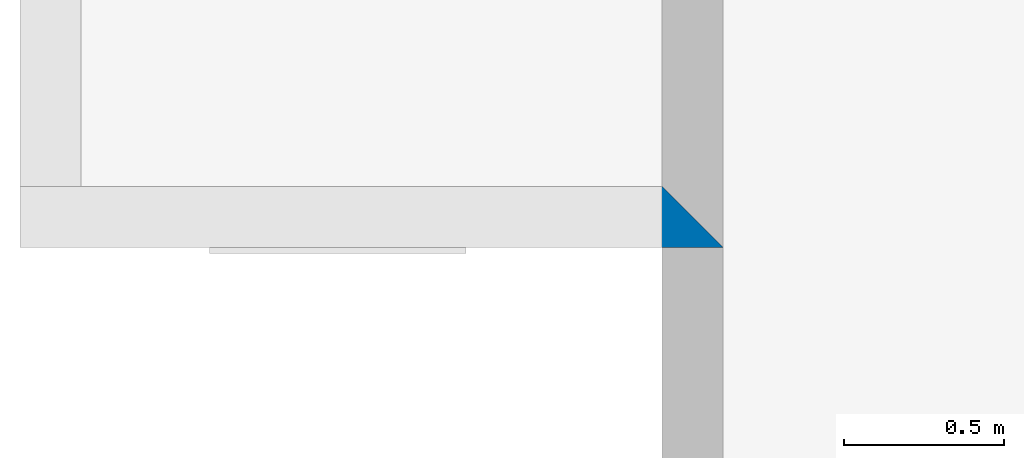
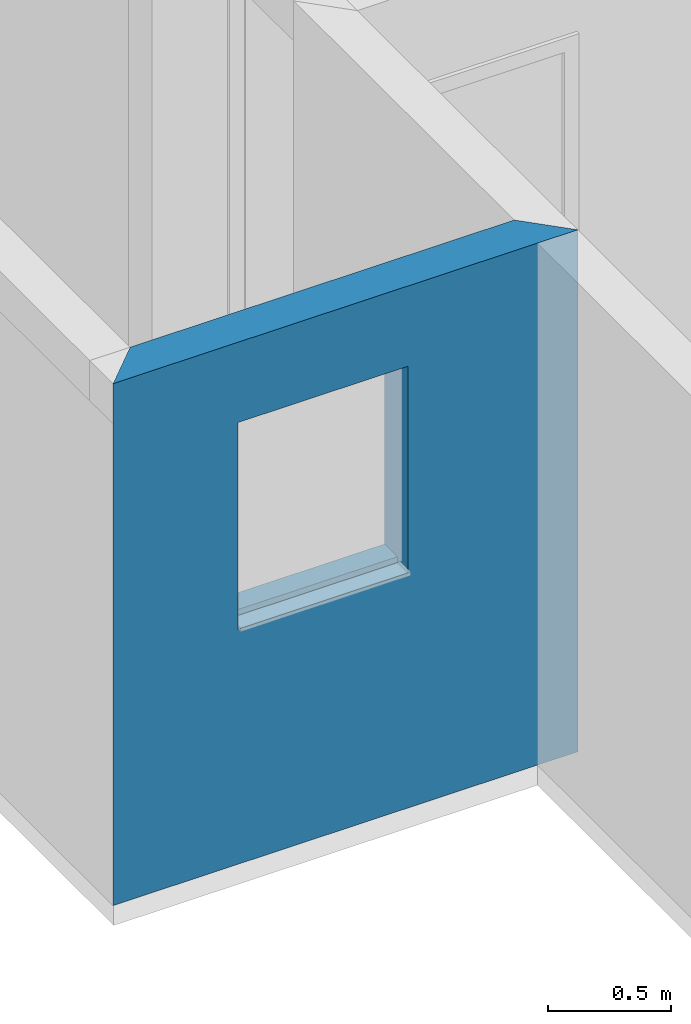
# One storey, part 3 of 47: 1 wall, 1 opening.
"""IFC2X3 building model written with IfcOpenShell, lengths in millimetres."""

from ifc_helpers import new_model, entity, si_unit, converted_unit, derived_unit, money_unit, direction, frame, origin_with_axes, origin_2d_with_axis, place, context, subcontext, project, spatial, polyline, rectangle, outline, extrude, material, layer, layer_set, layer_usage, type_object, element, save


model = new_model("IFC2X3")

# Units and contexts
model_context = context("Model", 3, precision=0.01, world=origin_with_axes(), true_north=direction((0.0, 1.0)))
body_context = subcontext(model_context, "Body", "Model", "MODEL_VIEW")
ifc_project = project(units=[si_unit("LENGTHUNIT", "METRE", prefix="MILLI"), si_unit("AREAUNIT", "SQUARE_METRE"), si_unit("VOLUMEUNIT", "CUBIC_METRE"), converted_unit("PLANEANGLEUNIT", "DEGREE", entity("IfcPlaneAngleMeasure", 0.0174532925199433), si_unit("PLANEANGLEUNIT", "RADIAN"), dimensions=[0, 0, 0, 0, 0, 0, 0]), money_unit("USD"), converted_unit("TIMEUNIT", "Year", entity("IfcTimeMeasure", 31557600.0), si_unit("TIMEUNIT", "SECOND"), dimensions=[0, 0, 1, 0, 0, 0, 0]), si_unit("MASSUNIT", "GRAM", prefix="KILO"), si_unit("THERMODYNAMICTEMPERATUREUNIT", "DEGREE_CELSIUS"), si_unit("LUMINOUSINTENSITYUNIT", "LUMEN"), si_unit("ENERGYUNIT", "JOULE", prefix="MEGA"), derived_unit("THERMALCONDUCTANCEUNIT", [(si_unit("POWERUNIT", "WATT"), 1), (si_unit("LENGTHUNIT", "METRE"), -1), (si_unit("THERMODYNAMICTEMPERATUREUNIT", "KELVIN"), -1)]), derived_unit("SPECIFICHEATCAPACITYUNIT", [(si_unit("ENERGYUNIT", "JOULE"), 1), (si_unit("MASSUNIT", "GRAM", prefix="KILO"), -1), (si_unit("THERMODYNAMICTEMPERATUREUNIT", "KELVIN"), -1)]), derived_unit("MASSDENSITYUNIT", [(si_unit("MASSUNIT", "GRAM", prefix="KILO"), 1), (si_unit("VOLUMEUNIT", "CUBIC_METRE"), -1)])], contexts=[model_context])

# Site, building, storey
site_placement = place(None, origin_with_axes())
site = spatial("IfcSite", under=ifc_project, at=site_placement, Name="Local", CompositionType="ELEMENT")
building_placement = place(site_placement, origin_with_axes())
building = spatial("IfcBuilding", under=site, at=building_placement, Name="Construção", CompositionType="ELEMENT")
storey_placement = place(building_placement, origin_with_axes())
storey = spatial("IfcBuildingStorey", under=building, at=storey_placement, Name="Pavimento Tipo", CompositionType="ELEMENT", Elevation=0.0)

# Wall, opening
ifc_material = material(Name="Concreto - Estrutural")
ifc_layer = layer(ifc_material, 190.0, ventilated="UNKNOWN")
ifc_layer_set = layer_set([ifc_layer], Name="Concreto - Estrutural 190")
ifc_layer_usage = layer_usage(ifc_layer_set, "AXIS2", "NEGATIVE", 0.0)
wall_type = type_object("IfcWallType", Name="Concreto - Estrutural 190", PredefinedType="NOTDEFINED")
wall_placement = place(storey_placement, frame((-4547.433002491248, -3.018582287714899, 0.0), z_axis=(0.0, 0.0, 1.0), x_axis=(-1.0, 0.0, 0.0)))
wall = element("IfcWallStandardCase", 1, at=wall_placement, inside=storey, type_object=wall_type, material=ifc_layer_usage, Name="Apartamento 3 - Parede-087", context=body_context, shape_type="SweptSolid", body=[
    extrude(outline(polyline([(0.0, -190.0), (1810.0, -190.0), (2000.0, 0.0), (-190.0000000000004, 0.0), (0.0, -190.0)])), origin_with_axes(), (0.0, 0.0, 1.0), 2600.0),
])
opening_placement = place(wall_placement, frame((1009.999999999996, 0.0, 1200.0), z_axis=(0.0, 0.0, 1.0), x_axis=(1.0, 0.0, 0.0)))
element("IfcOpeningElement", 2, at=opening_placement, cuts=wall, Name="Apartamento 3 - J04", context=body_context, shape_type="SweptSolid", body=[
    extrude(rectangle(XDim=800.0000000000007, YDim=1000.0, at=origin_2d_with_axis()), frame((0.0, -49.99999999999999, 500.0), z_axis=(0.0, 1.0, 0.0), x_axis=(1.0, 0.0, 0.0)), (0.0, 0.0, -1.0), 330.0),
    extrude(rectangle(XDim=800.0000000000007, YDim=1000.0, at=origin_2d_with_axis()), frame((0.0, -49.99999999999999, 500.0), z_axis=(0.0, -1.0, 0.0), x_axis=(1.0, 0.0, 0.0)), (0.0, 0.0, -1.0), 240.0),
    extrude(rectangle(XDim=800.0000000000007, YDim=30.00000000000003, at=origin_2d_with_axis()), frame((0.0, -85.00000000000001, -14.9999999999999), z_axis=(0.0, -1.0, 0.0), x_axis=(1.0, 0.0, 0.0)), (0.0, 0.0, -1.0), 225.0),
])

save(model, "model.ifc")
